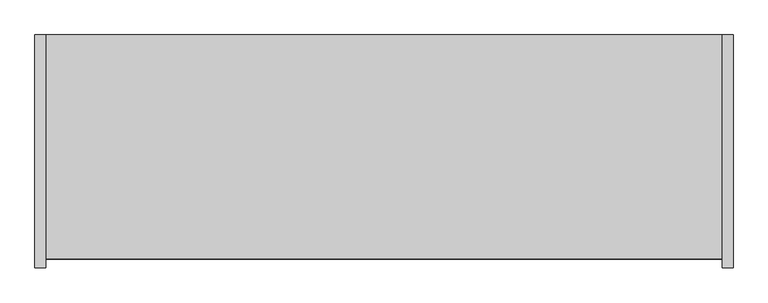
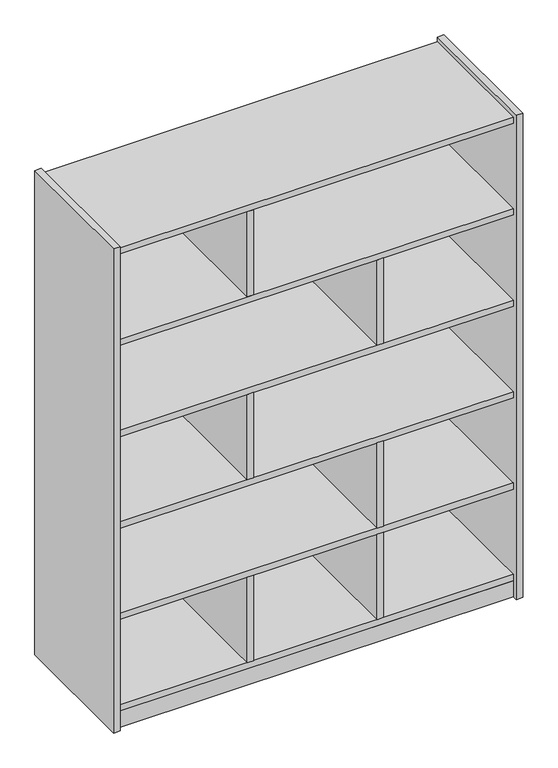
"""IFC4 building model written with IfcOpenShell, lengths in millimetres: furniture geometry, Police : mShelf."""

import ifcopenshell
import ifcopenshell.guid

model = None  # the IFC model being written
_history = None  # IfcOwnerHistory: only IFC2X3 demands one
_inside = {}  # id of a spatial element -> (the spatial element, [elements in it])
_under = {}  # id of a project, library or spatial element -> (it, [spatial elements below it])
_declared = {}  # id of a project -> (the project, [libraries it declares])
_typed = {}  # id of a type object -> (the type object, [elements of that type])
_made_of = {}  # id of a material, layer set ... -> (it, [elements and type objects made of it])


def new_model(schema):
    """Start an empty IFC model of exactly this schema.

    Asked for "IFC4X3", IfcOpenShell would pick the latest addendum, in which some entities
    have other attributes; the version numbers below select the first issue.
    IFC2X3 requires an IfcOwnerHistory on every rooted entity: one is made here for all.
    """
    global model, _history
    if schema == "IFC4X3":
        model = ifcopenshell.file(schema_version=(4, 3, 0, 0))
    else:
        model = ifcopenshell.file(schema=schema)
    _inside.clear()
    _under.clear()
    _declared.clear()
    _typed.clear()
    _made_of.clear()
    _history = None
    if model.schema == "IFC2X3":
        org = make("IfcOrganization", Name="unknown")
        user = make(
            "IfcPersonAndOrganization",
            ThePerson=make("IfcPerson", FamilyName="unknown"),
            TheOrganization=org,
        )
        app = make(
            "IfcApplication",
            ApplicationDeveloper=org,
            Version="unknown",
            ApplicationFullName="unknown",
            ApplicationIdentifier="unknown",
        )
        _history = make(
            "IfcOwnerHistory",
            OwningUser=user,
            OwningApplication=app,
            ChangeAction="ADDED",
            CreationDate=0,
        )
    return model


def make(cls, **values):
    """One entity of the class cls with the attributes given. An attribute that is None is left unset."""
    return model.create_entity(
        cls, **{name: value for name, value in values.items() if value is not None}
    )


def rooted(cls, **values):
    """An entity with a GlobalId (a new one), such as an element, a storey or a relation."""
    return make(cls, GlobalId=ifcopenshell.guid.new(), OwnerHistory=_history, **values)


def si_unit(unit_type, name, prefix=None):
    """IfcSIUnit, for example si_unit("LENGTHUNIT", "METRE", prefix="MILLI")."""
    return make("IfcSIUnit", UnitType=unit_type, Prefix=prefix, Name=name)


def assignment(units):
    """IfcUnitAssignment: the units of a project."""
    return None if units is None else make("IfcUnitAssignment", Units=units)


def point(xyz):
    """IfcCartesianPoint."""
    return None if xyz is None else make("IfcCartesianPoint", Coordinates=xyz)


def direction(xyz):
    """IfcDirection."""
    return None if xyz is None else make("IfcDirection", DirectionRatios=xyz)


def frame(location, z_axis=None, x_axis=None):
    """IfcAxis2Placement3D, a coordinate frame: its origin and axes. An axis left out is left unset."""
    return make(
        "IfcAxis2Placement3D",
        Location=point(location),
        Axis=direction(z_axis),
        RefDirection=direction(x_axis),
    )


def origin():
    """The frame at (0, 0, 0) with its axes left unset."""
    return frame((0.0, 0.0, 0.0))


def origin_with_axes():
    """The frame at (0, 0, 0) with the z axis (0, 0, 1) and the x axis (1, 0, 0) written out."""
    return frame((0.0, 0.0, 0.0), z_axis=(0.0, 0.0, 1.0), x_axis=(1.0, 0.0, 0.0))


def place(relative_to, where):
    """IfcLocalPlacement: puts the frame where relative to a parent placement (None: the world)."""
    return make(
        "IfcLocalPlacement", PlacementRelTo=relative_to, RelativePlacement=where
    )


def context(
    kind, dimensions, precision=None, world=None, true_north=None, identifier=None
):
    """IfcGeometricRepresentationContext, for example the 3D "Model" context."""
    return make(
        "IfcGeometricRepresentationContext",
        ContextIdentifier=identifier,
        ContextType=kind,
        CoordinateSpaceDimension=dimensions,
        Precision=precision,
        WorldCoordinateSystem=world,
        TrueNorth=true_north,
    )


def project(units=None, contexts=None):
    """IfcProject with its units and contexts."""
    return rooted(
        "IfcProject",
        Name="project",
        RepresentationContexts=contexts,
        UnitsInContext=assignment(units),
    )


def spatial(cls, under=None, at=None, **own):
    """A site, building, storey or space (cls), placed at a placement, below another one or the project."""
    s = rooted(cls, ObjectPlacement=at, **own)
    if under is not None:
        _under.setdefault(under.id(), (under, []))[1].append(s)
    return s


def polyline(points):
    """IfcPolyline through the points."""
    return make("IfcPolyline", Points=[point(p) for p in points])


def outline(outer, holes=None, kind="AREA"):
    """IfcArbitraryClosedProfileDef: a profile drawn as a closed curve; with holes, ...WithVoids."""
    if holes is None:
        return make("IfcArbitraryClosedProfileDef", ProfileType=kind, OuterCurve=outer)
    return make(
        "IfcArbitraryProfileDefWithVoids",
        ProfileType=kind,
        OuterCurve=outer,
        InnerCurves=holes,
    )


def extrude(swept, where, along, depth):
    """IfcExtrudedAreaSolid: the profile swept, set in the frame where, extruded along a direction by depth."""
    return make(
        "IfcExtrudedAreaSolid",
        SweptArea=swept,
        Position=where,
        ExtrudedDirection=direction(along),
        Depth=depth,
    )


def shape(context_of_items, identifier, shape_type, items):
    """IfcShapeRepresentation: the items that make up one representation, for example the "Body"."""
    return make(
        "IfcShapeRepresentation",
        ContextOfItems=context_of_items,
        RepresentationIdentifier=identifier,
        RepresentationType=shape_type,
        Items=items,
    )


def source(mapping_origin, context_of_items, identifier, shape_type, items):
    """IfcRepresentationMap: a shape defined once, which mapped items show again and again."""
    return make(
        "IfcRepresentationMap",
        MappingOrigin=mapping_origin,
        MappedRepresentation=shape(context_of_items, identifier, shape_type, items),
    )


def transform(
    local_origin,
    x_axis=None,
    y_axis=None,
    z_axis=None,
    scale=None,
    scale2=None,
    scale3=None,
    uniform=True,
):
    """IfcCartesianTransformationOperator3D, or its non-uniform kind. x_axis, y_axis, z_axis: its Axis1, 2, 3."""
    if uniform:
        return make(
            "IfcCartesianTransformationOperator3D",
            Axis1=direction(x_axis),
            Axis2=direction(y_axis),
            LocalOrigin=point(local_origin),
            Scale=scale,
            Axis3=direction(z_axis),
        )
    return make(
        "IfcCartesianTransformationOperator3DnonUniform",
        Axis1=direction(x_axis),
        Axis2=direction(y_axis),
        LocalOrigin=point(local_origin),
        Scale=scale,
        Axis3=direction(z_axis),
        Scale2=scale2,
        Scale3=scale3,
    )


def mapped(mapping_source, mapping_target):
    """IfcMappedItem: shows the shape of a source again, moved by a transform."""
    return make(
        "IfcMappedItem", MappingSource=mapping_source, MappingTarget=mapping_target
    )


def made_of(thing, what):
    """Note that an element or type object is made of a material, layer set ...; save() writes the relation."""
    if what is not None:
        _made_of.setdefault(what.id(), (what, []))[1].append(thing)
    return thing


def element(
    cls,
    number,
    at=None,
    inside=None,
    cuts=None,
    type_object=None,
    material=None,
    context=None,
    identifier="Body",
    shape_type=None,
    held_by="IfcProductDefinitionShape",
    body=None,
    shapes=None,
    **own,
):
    """One element of the class cls, such as IfcWall. Its Tag is "e" and its number.

    at: its placement. inside: the storey or other place that contains it. cuts: it is an
    opening in that element (IfcRelVoidsElement). A single representation is given by context,
    identifier, shape_type and body (its items); several are given by shapes. held_by: the class
    of the entity that holds the representations. save() writes the other relations.
    """
    e = rooted(cls, Tag="e%d" % number, ObjectPlacement=at, **own)
    if body is not None:
        shapes = [shape(context, identifier, shape_type, body)]
    if shapes is not None:
        e.Representation = make(held_by, Representations=shapes)
    if inside is not None:
        _inside.setdefault(inside.id(), (inside, []))[1].append(e)
    if cuts is not None:
        rooted(
            "IfcRelVoidsElement", RelatingBuildingElement=cuts, RelatedOpeningElement=e
        )
    if type_object is not None:
        _typed.setdefault(type_object.id(), (type_object, []))[1].append(e)
    return made_of(e, material)


def aggregate(whole, parts):
    """IfcRelAggregates: a whole, such as a stair, and the parts it consists of."""
    return rooted("IfcRelAggregates", RelatingObject=whole, RelatedObjects=parts)


def save(model, path):
    """Write the relations noted so far, then the file.

    IfcRelAggregates (storeys below a building ...), IfcRelContainedInSpatialStructure (elements
    in a storey), IfcRelDefinesByType, IfcRelAssociatesMaterial and IfcRelDeclares: one each for
    every whole, place, type object, material and project.
    """
    for whole, parts in _under.values():
        aggregate(whole, parts)
    for where, things in _inside.values():
        rooted(
            "IfcRelContainedInSpatialStructure",
            RelatedElements=things,
            RelatingStructure=where,
        )
    for kind, things in _typed.values():
        rooted("IfcRelDefinesByType", RelatedObjects=things, RelatingType=kind)
    for what, things in _made_of.values():
        rooted("IfcRelAssociatesMaterial", RelatedObjects=things, RelatingMaterial=what)
    for by, libraries in _declared.values():
        rooted("IfcRelDeclares", RelatingContext=by, RelatedDefinitions=libraries)
    model.write(path)


def furniture_c2d1312a(model_context):
    return source(origin(), model_context, "Body", "SweptSolid", [
        extrude(outline(polyline([(-181.0, -385.0), (-200.0, -385.0), (-200.0, 0.0), (-181.0, 0.0), (-181.0, -385.0)])), frame((0.0, 0.0, 1201.8), z_axis=(0.0, 0.0, 1.0), x_axis=(1.0, 0.0, 0.0)), (0.0, 0.0, 1.0), 264.2),
        extrude(outline(polyline([(200.0, -385.0), (181.0, -385.0), (181.0, 0.0), (200.0, 0.0), (200.0, -385.0)])), frame((0.0, 0.0, 918.6), z_axis=(0.0, 0.0, 1.0), x_axis=(1.0, 0.0, 0.0)), (0.0, 0.0, 1.0), 264.2),
        extrude(outline(polyline([(-181.0, -385.0), (-200.0, -385.0), (-200.0, 0.0), (-181.0, 0.0), (-181.0, -385.0)])), frame((0.0, 0.0, 635.4), z_axis=(0.0, 0.0, 1.0), x_axis=(1.0, 0.0, 0.0)), (0.0, 0.0, 1.0), 264.2),
        extrude(outline(polyline([(200.0, -385.0), (181.0, -385.0), (181.0, 0.0), (200.0, 0.0), (200.0, -385.0)])), frame((0.0, 0.0, 352.2), z_axis=(0.0, 0.0, 1.0), x_axis=(1.0, 0.0, 0.0)), (0.0, 0.0, 1.0), 264.2),
        extrude(outline(polyline([(200.0, -385.0), (181.0, -385.0), (181.0, 0.0), (200.0, 0.0), (200.0, -385.0)])), frame((0.0, 0.0, 69.0), z_axis=(0.0, 0.0, 1.0), x_axis=(1.0, 0.0, 0.0)), (0.0, 0.0, 1.0), 264.2),
        extrude(outline(polyline([(-181.0, -385.0), (-200.0, -385.0), (-200.0, 0.0), (-181.0, 0.0), (-181.0, -385.0)])), frame((0.0, 0.0, 69.0), z_axis=(0.0, 0.0, 1.0), x_axis=(1.0, 0.0, 0.0)), (0.0, 0.0, 1.0), 264.2),
        extrude(outline(polyline([(581.0, -385.0), (-581.0, -385.0), (-581.0, 0.0), (581.0, 0.0), (581.0, -385.0)])), frame((0.0, 0.0, 50.0), z_axis=(0.0, 0.0, 1.0), x_axis=(1.0, 0.0, 0.0)), (0.0, 0.0, 1.0), 19.0),
        extrude(outline(polyline([(581.0, -385.0), (-581.0, -385.0), (-581.0, 0.0), (581.0, 0.0), (581.0, -385.0)])), frame((0.0, 0.0, 333.2), z_axis=(0.0, 0.0, 1.0), x_axis=(1.0, 0.0, 0.0)), (0.0, 0.0, 1.0), 19.0),
        extrude(outline(polyline([(581.0, -385.0), (-581.0, -385.0), (-581.0, 0.0), (581.0, 0.0), (581.0, -385.0)])), frame((0.0, 0.0, 616.4), z_axis=(0.0, 0.0, 1.0), x_axis=(1.0, 0.0, 0.0)), (0.0, 0.0, 1.0), 19.0),
        extrude(outline(polyline([(581.0, -385.0), (-581.0, -385.0), (-581.0, 0.0), (581.0, 0.0), (581.0, -385.0)])), frame((0.0, 0.0, 899.6), z_axis=(0.0, 0.0, 1.0), x_axis=(1.0, 0.0, 0.0)), (0.0, 0.0, 1.0), 19.0),
        extrude(outline(polyline([(581.0, -385.0), (-581.0, -385.0), (-581.0, 0.0), (581.0, 0.0), (581.0, -385.0)])), frame((0.0, 0.0, 1182.8), z_axis=(0.0, 0.0, 1.0), x_axis=(1.0, 0.0, 0.0)), (0.0, 0.0, 1.0), 19.0),
        extrude(outline(polyline([(581.0, -385.0), (-581.0, -385.0), (-581.0, 0.0), (581.0, 0.0), (581.0, -385.0)])), frame((0.0, 0.0, 1466.0), z_axis=(0.0, 0.0, 1.0), x_axis=(1.0, 0.0, 0.0)), (0.0, 0.0, 1.0), 19.0),
        extrude(outline(polyline([(581.0, -385.0), (-581.0, -385.0), (-581.0, -366.0), (581.0, -366.0), (581.0, -385.0)])), origin_with_axes(), (0.0, 0.0, 1.0), 50.0),
        extrude(outline(polyline([(-581.0, 0.0), (-581.0, -400.0), (-600.0, -400.0), (-600.0, 0.0), (-581.0, 0.0)])), origin_with_axes(), (0.0, 0.0, 1.0), 1500.0),
        extrude(outline(polyline([(600.0, 0.0), (600.0, -400.0), (581.0, -400.0), (581.0, 0.0), (600.0, 0.0)])), origin_with_axes(), (0.0, 0.0, 1.0), 1500.0),
    ])


if __name__ == "__main__":
    model = new_model("IFC4")
    model_context = context("Model", 3, world=origin())
    ifc_project = project(units=[si_unit("LENGTHUNIT", "METRE", prefix="MILLI")], contexts=[model_context])
    site = spatial("IfcSite", under=ifc_project)
    building = spatial("IfcBuilding", under=site)
    placement = place(None, origin())
    furniture_shape = furniture_c2d1312a(model_context)
    element("IfcFurniture", 1, ObjectType="Police : mShelf", at=placement, inside=building, context=model_context, shape_type="MappedRepresentation", body=[
        mapped(furniture_shape, transform((0.0, 0.0, 0.0), x_axis=(1.0, 0.0, 0.0), y_axis=(0.0, 1.0, 0.0), z_axis=(0.0, 0.0, 1.0))),
    ])
    save(model, "model.ifc")
